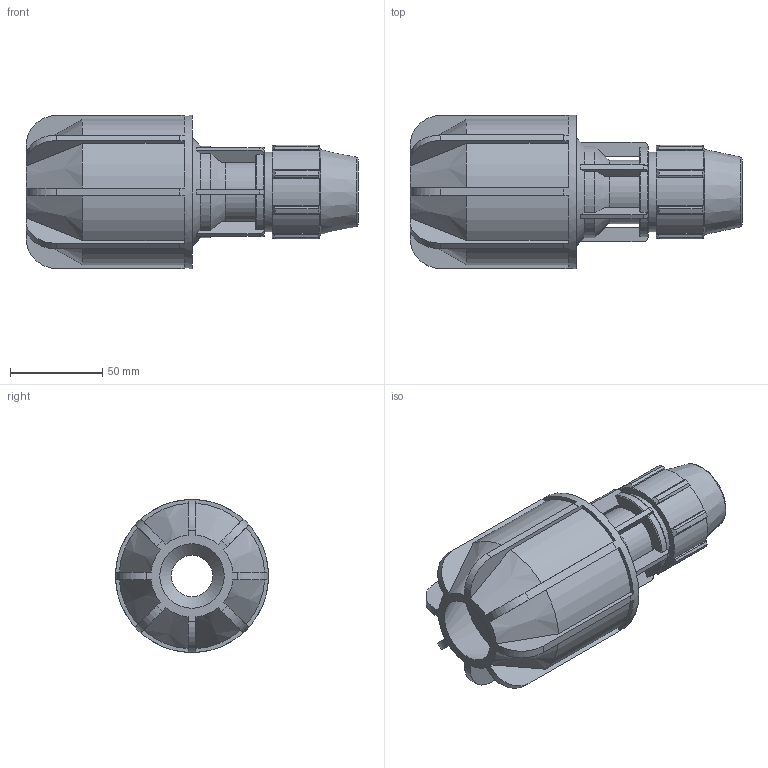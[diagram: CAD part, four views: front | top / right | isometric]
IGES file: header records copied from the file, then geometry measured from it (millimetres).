
Global section: file name: 070170025035_180170025035_0701760250350A.ipt; native system: Autodesk Inventor 2015; preprocessor: unknown; author: KIM; date: 20170606.172102; units: millimetre
Bounding box: 180 x 83 x 83 mm (x, y, z)
Volume: 358107.6 mm3; surface area: 74925.2 mm2
Topology: 1 solids, 1 shells, 206 faces, 625 edges, 415 vertices
Faces by surface type: plane 112, cylinder 53, revolution 21, cone 20
Full cylindrical faces by diameter (mm): 34.238 x1, 43.2 x1, 83 x1
